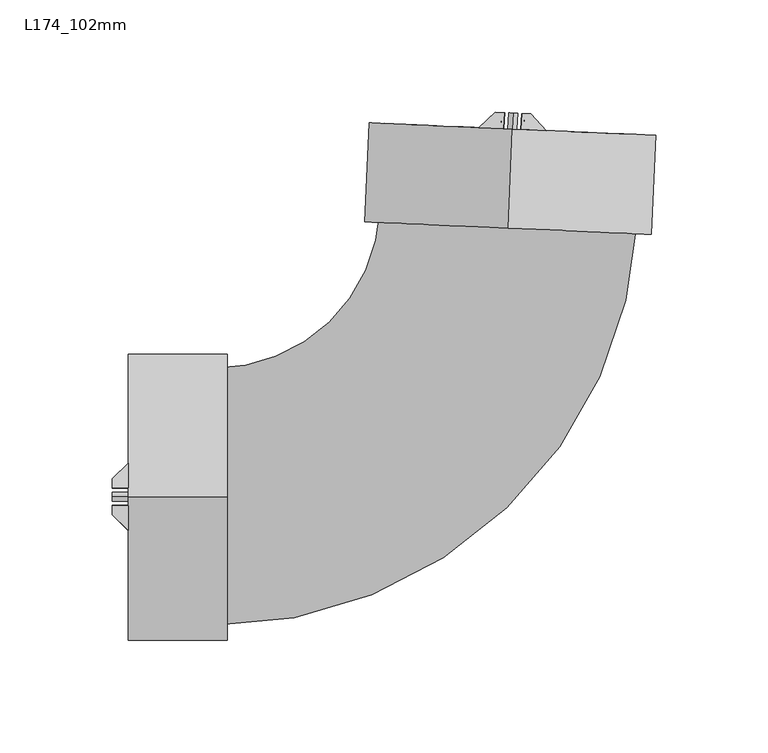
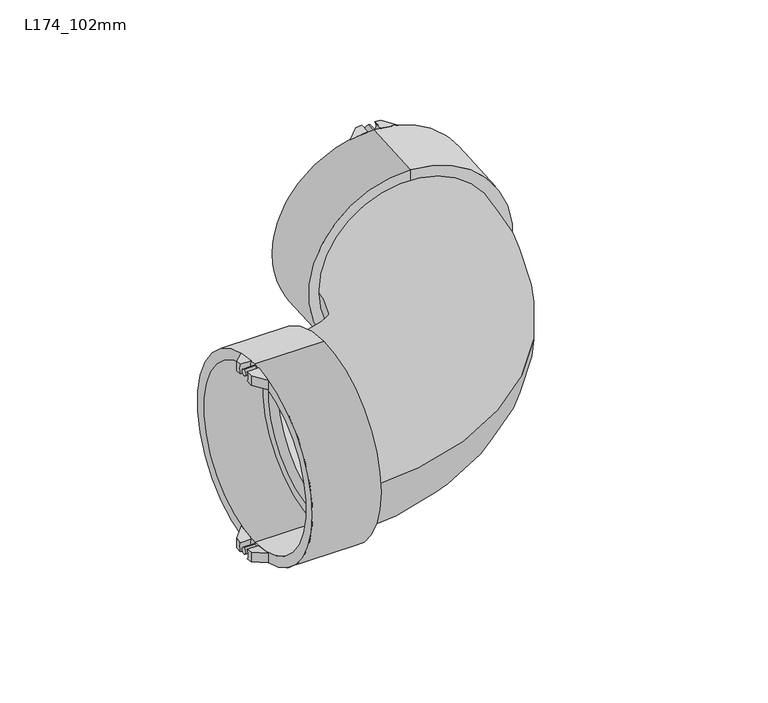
"""IFC4 building model written with IfcOpenShell, lengths in millimetres: pipe fitting geometry, Durapipe_PipeFitting_VulcatheneEnfusion_DoubleSocketLongSweepBend_L17 : L174_102mm."""

from ifc_helpers import new_model, si_unit, point, frame, frame_2d, origin, place, context, project, spatial, polyline, circle_curve, ellipse_curve, trimmed, segment, composite_curve, outline, extrude, source, transform, mapped, element, save
from ifc_brep_helpers import plane_surface, cylinder_surface, revolved_surface, advanced_brep


def l174_102mm_c659d813(model_context):
    return source(origin(), model_context, "Body", "SolidModel", [
        advanced_brep(
        [(3.6793337, 170.8945692, -57.2253926), (3.4771819, 170.9033954, -63.5253926), (-0.4782208, 171.076092, -63.1528218), (-0.4782208, 171.076092, -56.7977015), (-7.8411989, 164.2908025, -61.8572752), (3.1674842, 163.810153, -63.5253926), (3.369636, 163.8013269, -57.2253926), (-7.8411989, 164.2908025, -55.3536133)],
        [
            (0, 1, circle_curve(frame((7.454222, 170.7297541, -60.5), z_axis=(-0.04361938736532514, -0.9990482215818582, 0.0), x_axis=(0.0, 0.0, 1.0)), 5.0)),
            (1, 2, circle_curve(frame((7.454222, 170.7297541, 0.0), z_axis=(0.04361938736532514, 0.9990482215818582, 0.0), x_axis=(0.0, 0.0, 1.0)), 63.65)),
            (2, 3),
            (3, 0, circle_curve(frame((7.454222, 170.7297541, 0.0), z_axis=(-0.04361938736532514, -0.9990482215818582, 0.0), x_axis=(0.0, 0.0, 1.0)), 57.35)),
            (4, 5, circle_curve(frame((7.1445244, 163.6365117, 0.0), z_axis=(-0.04361938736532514, -0.9990482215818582, 0.0), x_axis=(0.0, 0.0, 1.0)), 63.65)),
            (5, 6, circle_curve(frame((7.1445244, 163.6365117, -60.5), z_axis=(0.04361938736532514, 0.9990482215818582, 0.0), x_axis=(0.0, 0.0, 1.0)), 5.0)),
            (6, 7, circle_curve(frame((7.1445244, 163.6365117, 0.0), z_axis=(0.04361938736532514, 0.9990482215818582, 0.0), x_axis=(0.0, 0.0, 1.0)), 57.35)),
            (7, 4),
            (6, 0),
            (3, 7, ellipse_curve(frame((7.8025222, 178.70714, 0.0), z_axis=(-0.6776702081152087, 0.7353659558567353, 0.0), x_axis=(-0.7353659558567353, -0.6776702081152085, 0.0)), 81.3352319, 57.35)),
            (4, 2, ellipse_curve(frame((7.8025222, 178.70714, 0.0), z_axis=(0.6776702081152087, -0.7353659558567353, 0.0), x_axis=(0.7353659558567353, 0.6776702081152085, 0.0)), 90.2700525, 63.65)),
            (1, 5),
        ],
        [
            plane_surface(frame((-7.5315013, 171.3840449, -61.8572752), z_axis=(0.04361938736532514, 0.9990482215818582, 0.0), x_axis=(0.0, 0.0, 1.0))),
            plane_surface(frame((-7.8411989, 164.2908025, -61.8572752), z_axis=(-0.04361938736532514, -0.9990482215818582, 0.0), x_axis=(0.0, 0.0, -1.0))),
            revolved_surface(polyline([(5.2867771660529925, 121.08710460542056, 57.35), (10.318267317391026, 236.32717539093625, 57.35)]), (7.1445244, 163.6365117, 0.0), (-0.04361938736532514, -0.9990482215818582, 0.0)),
            cylinder_surface(frame((7.1445244, 163.6365117, 0.0), z_axis=(0.04361938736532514, 0.9990482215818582, 0.0), x_axis=(0.0, 0.0, 1.0)), 63.65),
            revolved_surface(polyline([(7.454222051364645, 170.7297540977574, -55.5), (7.144524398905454, 163.6365116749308, -55.5)]), (7.1445244, 163.6365117, -60.5), (0.04361938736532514, 0.9990482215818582, 0.0)),
            plane_surface(frame((-7.8411989, 164.2908025, 63.65), z_axis=(-0.6776702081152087, 0.7353659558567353, 0.0), x_axis=(0.0, 0.0, -1.0))),
        ],
        [
            (0, [[1, 2, 3, 4]]),
            (1, [[5, 6, 7, 8]]),
            (2, [[-7, 9, -4, 10]]),
            (3, [[-5, 11, -2, 12]]),
            (4, [[-1, -9, -6, -12]]),
            (5, [[-3, -11, -8, -10]]),
        ],
    ),
        advanced_brep(
        [(11.4312622, 170.5561127, -63.5253926), (11.2291104, 170.5649389, -57.2253926), (15.3866649, 170.3834161, -56.7977015), (15.3866649, 170.3834161, -63.1528218), (11.1215646, 163.4628704, -63.5253926), (22.1302477, 162.9822209, -61.8572752), (22.1302477, 162.9822209, -55.3536133), (10.9194127, 163.4716965, -57.2253926)],
        [
            (0, 1, circle_curve(frame((7.454222, 170.7297541, -60.5), z_axis=(-0.04361938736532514, -0.9990482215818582, 0.0), x_axis=(0.0, 0.0, 1.0)), 5.0)),
            (1, 2, circle_curve(frame((7.454222, 170.7297541, 0.0), z_axis=(-0.04361938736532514, -0.9990482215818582, 0.0), x_axis=(0.0, 0.0, 1.0)), 57.35)),
            (2, 3),
            (3, 0, circle_curve(frame((7.454222, 170.7297541, 0.0), z_axis=(0.04361938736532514, 0.9990482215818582, 0.0), x_axis=(0.0, 0.0, 1.0)), 63.65)),
            (4, 5, circle_curve(frame((7.1445244, 163.6365117, 0.0), z_axis=(-0.04361938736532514, -0.9990482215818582, 0.0), x_axis=(0.0, 0.0, 1.0)), 63.65)),
            (5, 6),
            (6, 7, circle_curve(frame((7.1445244, 163.6365117, 0.0), z_axis=(0.04361938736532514, 0.9990482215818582, 0.0), x_axis=(0.0, 0.0, 1.0)), 57.35)),
            (7, 4, circle_curve(frame((7.1445244, 163.6365117, -60.5), z_axis=(0.04361938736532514, 0.9990482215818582, 0.0), x_axis=(0.0, 0.0, 1.0)), 5.0)),
            (6, 2, ellipse_curve(frame((7.8025222, 178.70714, 0.0), z_axis=(0.7391828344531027, 0.6735048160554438, 0.0), x_axis=(0.6735048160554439, -0.7391828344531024, 0.0)), 81.3352319, 57.35)),
            (1, 7),
            (4, 0),
            (3, 5, ellipse_curve(frame((7.8025222, 178.70714, 0.0), z_axis=(-0.7391828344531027, -0.6735048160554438, 0.0), x_axis=(-0.6735048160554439, 0.7391828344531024, 0.0)), 90.2700525, 63.65)),
        ],
        [
            plane_surface(frame((-7.5315013, 171.3840449, -61.8572752), z_axis=(0.04361938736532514, 0.9990482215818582, 0.0), x_axis=(0.0, 0.0, 1.0))),
            plane_surface(frame((-7.8411989, 164.2908025, -61.8572752), z_axis=(-0.04361938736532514, -0.9990482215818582, 0.0), x_axis=(0.0, 0.0, -1.0))),
            revolved_surface(polyline([(5.286777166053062, 121.08710460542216, 57.35), (10.318267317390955, 236.32717539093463, 57.35)]), (7.1445244, 163.6365117, 0.0), (-0.04361938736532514, -0.9990482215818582, 0.0)),
            cylinder_surface(frame((7.1445244, 163.6365117, 0.0), z_axis=(0.04361938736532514, 0.9990482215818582, 0.0), x_axis=(0.0, 0.0, 1.0)), 63.65),
            revolved_surface(polyline([(7.454222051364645, 170.7297540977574, -55.5), (7.144524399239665, 163.63651168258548, -55.5)]), (7.1445244, 163.6365117, -60.5), (0.04361938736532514, 0.9990482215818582, 0.0)),
            plane_surface(frame((15.3866649, 170.3834161, 63.65), z_axis=(0.7391828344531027, 0.6735048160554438, 0.0), x_axis=(0.0, 0.0, -1.0))),
        ],
        [
            (0, [[1, 2, 3, 4]]),
            (1, [[5, 6, 7, 8]]),
            (2, [[-7, 9, -2, 10]]),
            (3, [[-5, 11, -4, 12]]),
            (4, [[-1, -11, -8, -10]]),
            (5, [[-3, -9, -6, -12]]),
        ],
    ),
        advanced_brep(
        [(3.4771819, 170.9033954, 63.5253926), (3.6793337, 170.8945692, 57.2253926), (-0.4782208, 171.076092, 56.7977015), (-0.4782208, 171.076092, 63.1528218), (3.1674842, 163.810153, 63.5253926), (-7.8411989, 164.2908025, 61.8572752), (-7.8411989, 164.2908025, 55.3536133), (3.369636, 163.8013269, 57.2253926)],
        [
            (0, 1, circle_curve(frame((7.454222, 170.7297541, 60.5), z_axis=(-0.04361938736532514, -0.9990482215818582, 0.0), x_axis=(0.0, 0.0, 1.0)), 5.0)),
            (1, 2, circle_curve(frame((7.454222, 170.7297541, 0.0), z_axis=(-0.04361938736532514, -0.9990482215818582, 0.0), x_axis=(0.0, 0.0, 1.0)), 57.35)),
            (2, 3),
            (3, 0, circle_curve(frame((7.454222, 170.7297541, 0.0), z_axis=(0.04361938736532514, 0.9990482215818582, 0.0), x_axis=(0.0, 0.0, 1.0)), 63.65)),
            (4, 5, circle_curve(frame((7.1445244, 163.6365117, 0.0), z_axis=(-0.04361938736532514, -0.9990482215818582, 0.0), x_axis=(0.0, 0.0, 1.0)), 63.65)),
            (5, 6),
            (6, 7, circle_curve(frame((7.1445244, 163.6365117, 0.0), z_axis=(0.04361938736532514, 0.9990482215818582, 0.0), x_axis=(0.0, 0.0, 1.0)), 57.35)),
            (7, 4, circle_curve(frame((7.1445244, 163.6365117, 60.5), z_axis=(0.04361938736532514, 0.9990482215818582, 0.0), x_axis=(0.0, 0.0, 1.0)), 5.0)),
            (6, 2, ellipse_curve(frame((7.8025222, 178.70714, 0.0), z_axis=(-0.6776702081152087, 0.7353659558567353, 0.0), x_axis=(-0.7353659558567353, -0.6776702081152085, 0.0)), 81.3352319, 57.35)),
            (1, 7),
            (4, 0),
            (3, 5, ellipse_curve(frame((7.8025222, 178.70714, 0.0), z_axis=(0.6776702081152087, -0.7353659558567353, 0.0), x_axis=(0.7353659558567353, 0.6776702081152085, 0.0)), 90.2700525, 63.65)),
        ],
        [
            plane_surface(frame((-7.5315013, 171.3840449, -61.8572752), z_axis=(0.04361938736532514, 0.9990482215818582, 0.0), x_axis=(0.0, 0.0, 1.0))),
            plane_surface(frame((-7.8411989, 164.2908025, -61.8572752), z_axis=(-0.04361938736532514, -0.9990482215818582, 0.0), x_axis=(0.0, 0.0, -1.0))),
            revolved_surface(polyline([(5.2867771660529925, 121.08710460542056, 57.35), (10.318267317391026, 236.32717539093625, 57.35)]), (7.1445244, 163.6365117, 0.0), (-0.04361938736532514, -0.9990482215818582, 0.0)),
            cylinder_surface(frame((7.1445244, 163.6365117, 0.0), z_axis=(0.04361938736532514, 0.9990482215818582, 0.0), x_axis=(0.0, 0.0, 1.0)), 63.65),
            revolved_surface(polyline([(7.454222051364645, 170.7297540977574, 65.5), (7.144524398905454, 163.6365116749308, 65.5)]), (7.1445244, 163.6365117, 60.5), (0.04361938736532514, 0.9990482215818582, 0.0)),
            plane_surface(frame((-7.8411989, 164.2908025, 63.65), z_axis=(-0.6776702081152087, 0.7353659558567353, 0.0), x_axis=(0.0, 0.0, -1.0))),
        ],
        [
            (0, [[1, 2, 3, 4]]),
            (1, [[5, 6, 7, 8]]),
            (2, [[-7, 9, -2, 10]]),
            (3, [[-5, 11, -4, 12]]),
            (4, [[-1, -11, -8, -10]]),
            (5, [[-3, -9, -6, -12]]),
        ],
    ),
        advanced_brep(
        [(11.2291104, 170.5649389, 57.2253926), (11.4312622, 170.5561127, 63.5253926), (15.3866649, 170.3834161, 63.1528218), (15.3866649, 170.3834161, 56.7977015), (22.1302477, 162.9822209, 61.8572752), (11.1215646, 163.4628704, 63.5253926), (10.9194127, 163.4716965, 57.2253926), (22.1302477, 162.9822209, 55.3536133)],
        [
            (0, 1, circle_curve(frame((7.454222, 170.7297541, 60.5), z_axis=(-0.04361938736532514, -0.9990482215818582, 0.0), x_axis=(0.0, 0.0, 1.0)), 5.0)),
            (1, 2, circle_curve(frame((7.454222, 170.7297541, 0.0), z_axis=(0.04361938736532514, 0.9990482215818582, 0.0), x_axis=(0.0, 0.0, 1.0)), 63.65)),
            (2, 3),
            (3, 0, circle_curve(frame((7.454222, 170.7297541, 0.0), z_axis=(-0.04361938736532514, -0.9990482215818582, 0.0), x_axis=(0.0, 0.0, 1.0)), 57.35)),
            (4, 5, circle_curve(frame((7.1445244, 163.6365117, 0.0), z_axis=(-0.04361938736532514, -0.9990482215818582, 0.0), x_axis=(0.0, 0.0, 1.0)), 63.65)),
            (5, 6, circle_curve(frame((7.1445244, 163.6365117, 60.5), z_axis=(0.04361938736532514, 0.9990482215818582, 0.0), x_axis=(0.0, 0.0, 1.0)), 5.0)),
            (6, 7, circle_curve(frame((7.1445244, 163.6365117, 0.0), z_axis=(0.04361938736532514, 0.9990482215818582, 0.0), x_axis=(0.0, 0.0, 1.0)), 57.35)),
            (7, 4),
            (6, 0),
            (3, 7, ellipse_curve(frame((7.8025222, 178.70714, 0.0), z_axis=(0.7391828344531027, 0.6735048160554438, 0.0), x_axis=(0.6735048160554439, -0.7391828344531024, 0.0)), 81.3352319, 57.35)),
            (4, 2, ellipse_curve(frame((7.8025222, 178.70714, 0.0), z_axis=(-0.7391828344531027, -0.6735048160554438, 0.0), x_axis=(-0.6735048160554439, 0.7391828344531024, 0.0)), 90.2700525, 63.65)),
            (1, 5),
        ],
        [
            plane_surface(frame((-7.5315013, 171.3840449, -61.8572752), z_axis=(0.04361938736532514, 0.9990482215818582, 0.0), x_axis=(0.0, 0.0, 1.0))),
            plane_surface(frame((-7.8411989, 164.2908025, -61.8572752), z_axis=(-0.04361938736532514, -0.9990482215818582, 0.0), x_axis=(0.0, 0.0, -1.0))),
            revolved_surface(polyline([(5.286777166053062, 121.08710460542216, 57.35), (10.318267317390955, 236.32717539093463, 57.35)]), (7.1445244, 163.6365117, 0.0), (-0.04361938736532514, -0.9990482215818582, 0.0)),
            cylinder_surface(frame((7.1445244, 163.6365117, 0.0), z_axis=(0.04361938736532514, 0.9990482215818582, 0.0), x_axis=(0.0, 0.0, 1.0)), 63.65),
            revolved_surface(polyline([(7.454222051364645, 170.7297540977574, 65.5), (7.144524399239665, 163.63651168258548, 65.5)]), (7.1445244, 163.6365117, 60.5), (0.04361938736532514, 0.9990482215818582, 0.0)),
            plane_surface(frame((15.3866649, 170.3834161, 63.65), z_axis=(0.7391828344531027, 0.6735048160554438, 0.0), x_axis=(0.0, 0.0, -1.0))),
        ],
        [
            (0, [[1, 2, 3, 4]]),
            (1, [[5, 6, 7, 8]]),
            (2, [[-7, 9, -4, 10]]),
            (3, [[-5, 11, -2, 12]]),
            (4, [[-1, -9, -6, -12]]),
            (5, [[-3, -11, -8, -10]]),
        ],
    ),
        extrude(outline(composite_curve([segment(trimmed(circle_curve(frame_2d((0.0, -2.0)), 2.0), [point((0.0, -4.0))], [point((0.0, 0.0))], False, "CARTESIAN"), True, "CONTINUOUS"), segment(trimmed(circle_curve(frame_2d((0.0, -2.0)), 2.0), [point((0.0, 0.0))], [point((0.0, -4.0))], False, "CARTESIAN"), True, "CONTINUOUS")], self_intersect=False)), frame((7.1445244, 163.6365117, -58.5), z_axis=(0.04361938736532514, 0.9990482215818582, 0.0), x_axis=(-0.9990482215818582, 0.04361938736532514, 0.0)), (0.0, 0.0, 1.0), 7.1),
        extrude(outline(composite_curve([segment(trimmed(circle_curve(frame_2d((0.0, 119.0)), 2.0), [point((0.0, 117.0))], [point((0.0, 121.0))], False, "CARTESIAN"), True, "CONTINUOUS"), segment(trimmed(circle_curve(frame_2d((0.0, 119.0)), 2.0), [point((0.0, 121.0))], [point((0.0, 117.0))], False, "CARTESIAN"), True, "CONTINUOUS")], self_intersect=False)), frame((7.1445244, 163.6365117, -58.5), z_axis=(0.04361938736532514, 0.9990482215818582, 0.0), x_axis=(-0.9990482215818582, 0.04361938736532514, 0.0)), (0.0, 0.0, 1.0), 7.1),
        advanced_brep(
        [(5.4826257, 125.5727744, -51.45), (5.4826257, 125.5727744, 51.45), (5.4826257, 125.5727744, 57.2), (5.4826257, 125.5727744, -57.2), (5.2209094, 119.5784851, -51.45), (5.2209094, 119.5784851, 51.45), (5.2209094, 119.5784851, -63.8), (5.2209094, 119.5784851, 63.8), (7.1445244, 163.6365117, -63.8), (7.1445244, 163.6365117, 63.8), (7.1445244, 163.6365117, -57.2), (7.1445244, 163.6365117, 57.2)],
        [
            (0, 1, circle_curve(frame((5.4826257, 125.5727744, 0.0), z_axis=(-0.04361938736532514, -0.9990482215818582, 0.0), x_axis=(0.0, 0.0, 1.0)), 51.45)),
            (1, 2),
            (2, 3, circle_curve(frame((5.4826257, 125.5727744, 0.0), z_axis=(0.04361938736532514, 0.9990482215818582, 0.0), x_axis=(0.0, 0.0, 1.0)), 57.2)),
            (3, 0),
            (1, 0, circle_curve(frame((5.4826257, 125.5727744, 0.0), z_axis=(-0.04361938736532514, -0.9990482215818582, 0.0), x_axis=(0.0, 0.0, 1.0)), 51.45)),
            (3, 2, circle_curve(frame((5.4826257, 125.5727744, 0.0), z_axis=(0.04361938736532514, 0.9990482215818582, 0.0), x_axis=(0.0, 0.0, 1.0)), 57.2)),
            (4, 5, circle_curve(frame((5.2209094, 119.5784851, 0.0), z_axis=(-0.04361938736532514, -0.9990482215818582, 0.0), x_axis=(0.0, 0.0, 1.0)), 51.45)),
            (5, 1),
            (0, 4),
            (5, 4, circle_curve(frame((5.2209094, 119.5784851, 0.0), z_axis=(-0.04361938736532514, -0.9990482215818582, 0.0), x_axis=(0.0, 0.0, 1.0)), 51.45)),
            (6, 7, circle_curve(frame((5.2209094, 119.5784851, 0.0), z_axis=(-0.04361938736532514, -0.9990482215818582, 0.0), x_axis=(0.0, 0.0, 1.0)), 63.8)),
            (7, 5),
            (4, 6),
            (7, 6, circle_curve(frame((5.2209094, 119.5784851, 0.0), z_axis=(-0.04361938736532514, -0.9990482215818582, 0.0), x_axis=(0.0, 0.0, 1.0)), 63.8)),
            (8, 9, circle_curve(frame((7.1445244, 163.6365117, 0.0), z_axis=(-0.04361938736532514, -0.9990482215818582, 0.0), x_axis=(0.0, 0.0, 1.0)), 63.8)),
            (9, 7),
            (6, 8),
            (9, 8, circle_curve(frame((7.1445244, 163.6365117, 0.0), z_axis=(-0.04361938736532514, -0.9990482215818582, 0.0), x_axis=(0.0, 0.0, 1.0)), 63.8)),
            (10, 11, circle_curve(frame((7.1445244, 163.6365117, 0.0), z_axis=(-0.04361938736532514, -0.9990482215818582, 0.0), x_axis=(0.0, 0.0, 1.0)), 57.2)),
            (11, 9),
            (8, 10),
            (11, 10, circle_curve(frame((7.1445244, 163.6365117, 0.0), z_axis=(-0.04361938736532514, -0.9990482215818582, 0.0), x_axis=(0.0, 0.0, 1.0)), 57.2)),
            (2, 11),
            (10, 3),
        ],
        [
            plane_surface(frame((5.4826257, 125.5727744, 0.0), z_axis=(0.04361938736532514, 0.9990482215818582, 0.0), x_axis=(0.0, 0.0, 1.0))),
            revolved_surface(polyline([(5.482625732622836, 125.5727743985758, 51.45), (5.220909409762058, 119.57848509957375, 51.45)]), (116.8029063, 2675.2263813, 0.0), (0.04361938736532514, 0.9990482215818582, 0.0)),
            plane_surface(frame((5.2209094, 119.5784851, 0.0), z_axis=(-0.04361938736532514, -0.9990482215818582, 0.0), x_axis=(0.0, 0.0, 1.0))),
            cylinder_surface(frame((116.8029063, 2675.2263813, 0.0), z_axis=(0.04361938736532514, 0.9990482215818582, 0.0), x_axis=(0.0, 0.0, 1.0)), 63.8),
            plane_surface(frame((7.1445244, 163.6365117, 0.0), z_axis=(0.04361938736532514, 0.9990482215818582, 0.0), x_axis=(0.0, 0.0, 1.0))),
            revolved_surface(polyline([(7.144524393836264, 163.63651170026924, 57.2), (5.482625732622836, 125.5727743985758, 57.2)]), (116.8029063, 2675.2263813, 0.0), (0.04361938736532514, 0.9990482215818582, 0.0)),
        ],
        [
            (0, [[1, 2, 3, 4]]),
            (0, [[5, -4, 6, -2]]),
            (1, [[7, 8, -1, 9]]),
            (1, [[10, -9, -5, -8]]),
            (2, [[11, 12, -7, 13]]),
            (2, [[14, -13, -10, -12]]),
            (3, [[15, 16, -11, 17]]),
            (3, [[18, -17, -14, -16]]),
            (4, [[19, 20, -15, 21]]),
            (4, [[22, -21, -18, -20]]),
            (5, [[-3, 23, -19, 24]]),
            (5, [[-6, -24, -22, -23]]),
        ],
    ),
        advanced_brep(
        [(-170.8924058, -3.7784846, -57.2253926), (-170.8924058, -3.980829, -63.5253926), (-170.8924058, -7.94, -63.1528218), (-170.8924058, -7.94, -56.7977015), (-163.7924058, -15.0, -61.8572752), (-163.7924058, -3.980829, -63.5253926), (-163.7924058, -3.7784846, -57.2253926), (-163.7924058, -15.0, -55.3536133)],
        [
            (0, 1, circle_curve(frame((-170.8924058, 0.0, -60.5), z_axis=(1.0, 0.0, 0.0), x_axis=(0.0, 0.0, 1.0)), 5.0)),
            (1, 2, circle_curve(frame((-170.8924058, 0.0, 0.0), z_axis=(-1.0, 0.0, 0.0), x_axis=(0.0, 0.0, 1.0)), 63.65)),
            (2, 3),
            (3, 0, circle_curve(frame((-170.8924058, 0.0, 0.0), z_axis=(1.0, 0.0, 0.0), x_axis=(0.0, 0.0, 1.0)), 57.35)),
            (4, 5, circle_curve(frame((-163.7924058, 0.0, 0.0), z_axis=(1.0, 0.0, 0.0), x_axis=(0.0, 0.0, 1.0)), 63.65)),
            (5, 6, circle_curve(frame((-163.7924058, 0.0, -60.5), z_axis=(-1.0, 0.0, 0.0), x_axis=(0.0, 0.0, 1.0)), 5.0)),
            (6, 7, circle_curve(frame((-163.7924058, 0.0, 0.0), z_axis=(-1.0, 0.0, 0.0), x_axis=(0.0, 0.0, 1.0)), 57.35)),
            (7, 4),
            (6, 0),
            (3, 7, ellipse_curve(frame((-178.8773916, 0.0, 0.0), z_axis=(-0.705106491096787, -0.7091014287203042, 0.0), x_axis=(0.7091014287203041, -0.7051064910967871, 0.0)), 81.3352319, 57.35)),
            (4, 2, ellipse_curve(frame((-178.8773916, 0.0, 0.0), z_axis=(0.705106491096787, 0.7091014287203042, 0.0), x_axis=(-0.7091014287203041, 0.7051064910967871, 0.0)), 90.2700525, 63.65)),
            (1, 5),
        ],
        [
            plane_surface(frame((-170.8924058, -15.0, -61.8572752), z_axis=(-1.0, 0.0, 0.0), x_axis=(0.0, 0.0, 1.0))),
            plane_surface(frame((-163.7924058, -15.0, -61.8572752), z_axis=(1.0, 0.0, 0.0), x_axis=(0.0, 0.0, -1.0))),
            revolved_surface(polyline([(-121.20246245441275, 0.0, 57.35), (-236.55232074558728, 0.0, 57.35)]), (-163.7924058, 0.0, 0.0), (1.0, 0.0, 0.0)),
            cylinder_surface(frame((-163.7924058, 0.0, 0.0), z_axis=(-1.0, 0.0, 0.0), x_axis=(0.0, 0.0, 1.0)), 63.65),
            revolved_surface(polyline([(-170.8924058, 0.0, -55.5), (-163.7924058, 0.0, -55.5)]), (-163.7924058, 0.0, -60.5), (-1.0, 0.0, 0.0)),
            plane_surface(frame((-163.7924058, -15.0, 63.65), z_axis=(-0.705106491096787, -0.7091014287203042, 0.0), x_axis=(0.0, 0.0, -1.0))),
        ],
        [
            (0, [[1, 2, 3, 4]]),
            (1, [[5, 6, 7, 8]]),
            (2, [[-7, 9, -4, 10]]),
            (3, [[-5, 11, -2, 12]]),
            (4, [[-1, -9, -6, -12]]),
            (5, [[-3, -11, -8, -10]]),
        ],
    ),
        advanced_brep(
        [(-170.8924058, 3.980829, -63.5253926), (-170.8924058, 3.7784846, -57.2253926), (-170.8924058, 7.94, -56.7977015), (-170.8924058, 7.94, -63.1528218), (-163.7924058, 3.980829, -63.5253926), (-163.7924058, 15.0, -61.8572752), (-163.7924058, 15.0, -55.3536133), (-163.7924058, 3.7784846, -57.2253926)],
        [
            (0, 1, circle_curve(frame((-170.8924058, 0.0, -60.5), z_axis=(1.0, 0.0, 0.0), x_axis=(0.0, 0.0, 1.0)), 5.0)),
            (1, 2, circle_curve(frame((-170.8924058, 0.0, 0.0), z_axis=(1.0, 0.0, 0.0), x_axis=(0.0, 0.0, 1.0)), 57.35)),
            (2, 3),
            (3, 0, circle_curve(frame((-170.8924058, 0.0, 0.0), z_axis=(-1.0, 0.0, 0.0), x_axis=(0.0, 0.0, 1.0)), 63.65)),
            (4, 5, circle_curve(frame((-163.7924058, 0.0, 0.0), z_axis=(1.0, 0.0, 0.0), x_axis=(0.0, 0.0, 1.0)), 63.65)),
            (5, 6),
            (6, 7, circle_curve(frame((-163.7924058, 0.0, 0.0), z_axis=(-1.0, 0.0, 0.0), x_axis=(0.0, 0.0, 1.0)), 57.35)),
            (7, 4, circle_curve(frame((-163.7924058, 0.0, -60.5), z_axis=(-1.0, 0.0, 0.0), x_axis=(0.0, 0.0, 1.0)), 5.0)),
            (6, 2, ellipse_curve(frame((-178.8773916, 0.0, 0.0), z_axis=(-0.7051064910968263, 0.7091014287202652, 0.0), x_axis=(0.7091014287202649, 0.7051064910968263, 0.0)), 81.3352319, 57.35)),
            (1, 7),
            (4, 0),
            (3, 5, ellipse_curve(frame((-178.8773916, 0.0, 0.0), z_axis=(0.7051064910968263, -0.7091014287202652, 0.0), x_axis=(-0.7091014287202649, -0.7051064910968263, 0.0)), 90.2700525, 63.65)),
        ],
        [
            plane_surface(frame((-170.8924058, -15.0, -61.8572752), z_axis=(-1.0, 0.0, 0.0), x_axis=(0.0, 0.0, 1.0))),
            plane_surface(frame((-163.7924058, -15.0, -61.8572752), z_axis=(1.0, 0.0, 0.0), x_axis=(0.0, 0.0, -1.0))),
            revolved_surface(polyline([(-121.20246245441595, 0.0, 57.35), (-236.55232074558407, 0.0, 57.35)]), (-163.7924058, 0.0, 0.0), (1.0, 0.0, 0.0)),
            cylinder_surface(frame((-163.7924058, 0.0, 0.0), z_axis=(-1.0, 0.0, 0.0), x_axis=(0.0, 0.0, 1.0)), 63.65),
            revolved_surface(polyline([(-170.8924058, 0.0, -55.5), (-163.7924058, 0.0, -55.5)]), (-163.7924058, 0.0, -60.5), (-1.0, 0.0, 0.0)),
            plane_surface(frame((-170.8924058, 7.94, 63.65), z_axis=(-0.7051064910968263, 0.7091014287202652, 0.0), x_axis=(0.0, 0.0, -1.0))),
        ],
        [
            (0, [[1, 2, 3, 4]]),
            (1, [[5, 6, 7, 8]]),
            (2, [[-7, 9, -2, 10]]),
            (3, [[-5, 11, -4, 12]]),
            (4, [[-1, -11, -8, -10]]),
            (5, [[-3, -9, -6, -12]]),
        ],
    ),
        advanced_brep(
        [(-170.8924058, -3.980829, 63.5253926), (-170.8924058, -3.7784846, 57.2253926), (-170.8924058, -7.94, 56.7977015), (-170.8924058, -7.94, 63.1528218), (-163.7924058, -3.980829, 63.5253926), (-163.7924058, -15.0, 61.8572752), (-163.7924058, -15.0, 55.3536133), (-163.7924058, -3.7784846, 57.2253926)],
        [
            (0, 1, circle_curve(frame((-170.8924058, 0.0, 60.5), z_axis=(1.0, 0.0, 0.0), x_axis=(0.0, 0.0, 1.0)), 5.0)),
            (1, 2, circle_curve(frame((-170.8924058, 0.0, 0.0), z_axis=(1.0, 0.0, 0.0), x_axis=(0.0, 0.0, 1.0)), 57.35)),
            (2, 3),
            (3, 0, circle_curve(frame((-170.8924058, 0.0, 0.0), z_axis=(-1.0, 0.0, 0.0), x_axis=(0.0, 0.0, 1.0)), 63.65)),
            (4, 5, circle_curve(frame((-163.7924058, 0.0, 0.0), z_axis=(1.0, 0.0, 0.0), x_axis=(0.0, 0.0, 1.0)), 63.65)),
            (5, 6),
            (6, 7, circle_curve(frame((-163.7924058, 0.0, 0.0), z_axis=(-1.0, 0.0, 0.0), x_axis=(0.0, 0.0, 1.0)), 57.35)),
            (7, 4, circle_curve(frame((-163.7924058, 0.0, 60.5), z_axis=(-1.0, 0.0, 0.0), x_axis=(0.0, 0.0, 1.0)), 5.0)),
            (6, 2, ellipse_curve(frame((-178.8773916, 0.0, 0.0), z_axis=(-0.705106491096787, -0.7091014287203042, 0.0), x_axis=(0.7091014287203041, -0.7051064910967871, 0.0)), 81.3352319, 57.35)),
            (1, 7),
            (4, 0),
            (3, 5, ellipse_curve(frame((-178.8773916, 0.0, 0.0), z_axis=(0.705106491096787, 0.7091014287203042, 0.0), x_axis=(-0.7091014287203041, 0.7051064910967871, 0.0)), 90.2700525, 63.65)),
        ],
        [
            plane_surface(frame((-170.8924058, -15.0, -61.8572752), z_axis=(-1.0, 0.0, 0.0), x_axis=(0.0, 0.0, 1.0))),
            plane_surface(frame((-163.7924058, -15.0, -61.8572752), z_axis=(1.0, 0.0, 0.0), x_axis=(0.0, 0.0, -1.0))),
            revolved_surface(polyline([(-121.20246245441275, 0.0, 57.35), (-236.55232074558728, 0.0, 57.35)]), (-163.7924058, 0.0, 0.0), (1.0, 0.0, 0.0)),
            cylinder_surface(frame((-163.7924058, 0.0, 0.0), z_axis=(-1.0, 0.0, 0.0), x_axis=(0.0, 0.0, 1.0)), 63.65),
            revolved_surface(polyline([(-170.8924058, 0.0, 65.5), (-163.7924058, 0.0, 65.5)]), (-163.7924058, 0.0, 60.5), (-1.0, 0.0, 0.0)),
            plane_surface(frame((-163.7924058, -15.0, 63.65), z_axis=(-0.705106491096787, -0.7091014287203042, 0.0), x_axis=(0.0, 0.0, -1.0))),
        ],
        [
            (0, [[1, 2, 3, 4]]),
            (1, [[5, 6, 7, 8]]),
            (2, [[-7, 9, -2, 10]]),
            (3, [[-5, 11, -4, 12]]),
            (4, [[-1, -11, -8, -10]]),
            (5, [[-3, -9, -6, -12]]),
        ],
    ),
        advanced_brep(
        [(-170.8924058, 3.7784846, 57.2253926), (-170.8924058, 3.980829, 63.5253926), (-170.8924058, 7.94, 63.1528218), (-170.8924058, 7.94, 56.7977015), (-163.7924058, 15.0, 61.8572752), (-163.7924058, 3.980829, 63.5253926), (-163.7924058, 3.7784846, 57.2253926), (-163.7924058, 15.0, 55.3536133)],
        [
            (0, 1, circle_curve(frame((-170.8924058, 0.0, 60.5), z_axis=(1.0, 0.0, 0.0), x_axis=(0.0, 0.0, 1.0)), 5.0)),
            (1, 2, circle_curve(frame((-170.8924058, 0.0, 0.0), z_axis=(-1.0, 0.0, 0.0), x_axis=(0.0, 0.0, 1.0)), 63.65)),
            (2, 3),
            (3, 0, circle_curve(frame((-170.8924058, 0.0, 0.0), z_axis=(1.0, 0.0, 0.0), x_axis=(0.0, 0.0, 1.0)), 57.35)),
            (4, 5, circle_curve(frame((-163.7924058, 0.0, 0.0), z_axis=(1.0, 0.0, 0.0), x_axis=(0.0, 0.0, 1.0)), 63.65)),
            (5, 6, circle_curve(frame((-163.7924058, 0.0, 60.5), z_axis=(-1.0, 0.0, 0.0), x_axis=(0.0, 0.0, 1.0)), 5.0)),
            (6, 7, circle_curve(frame((-163.7924058, 0.0, 0.0), z_axis=(-1.0, 0.0, 0.0), x_axis=(0.0, 0.0, 1.0)), 57.35)),
            (7, 4),
            (6, 0),
            (3, 7, ellipse_curve(frame((-178.8773916, 0.0, 0.0), z_axis=(-0.7051064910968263, 0.7091014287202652, 0.0), x_axis=(0.7091014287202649, 0.7051064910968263, 0.0)), 81.3352319, 57.35)),
            (4, 2, ellipse_curve(frame((-178.8773916, 0.0, 0.0), z_axis=(0.7051064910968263, -0.7091014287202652, 0.0), x_axis=(-0.7091014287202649, -0.7051064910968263, 0.0)), 90.2700525, 63.65)),
            (1, 5),
        ],
        [
            plane_surface(frame((-170.8924058, -15.0, -61.8572752), z_axis=(-1.0, 0.0, 0.0), x_axis=(0.0, 0.0, 1.0))),
            plane_surface(frame((-163.7924058, -15.0, -61.8572752), z_axis=(1.0, 0.0, 0.0), x_axis=(0.0, 0.0, -1.0))),
            revolved_surface(polyline([(-121.20246245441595, 0.0, 57.35), (-236.55232074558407, 0.0, 57.35)]), (-163.7924058, 0.0, 0.0), (1.0, 0.0, 0.0)),
            cylinder_surface(frame((-163.7924058, 0.0, 0.0), z_axis=(-1.0, 0.0, 0.0), x_axis=(0.0, 0.0, 1.0)), 63.65),
            revolved_surface(polyline([(-170.8924058, 0.0, 65.5), (-163.7924058, 0.0, 65.5)]), (-163.7924058, 0.0, 60.5), (-1.0, 0.0, 0.0)),
            plane_surface(frame((-170.8924058, 7.94, 63.65), z_axis=(-0.7051064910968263, 0.7091014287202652, 0.0), x_axis=(0.0, 0.0, -1.0))),
        ],
        [
            (0, [[1, 2, 3, 4]]),
            (1, [[5, 6, 7, 8]]),
            (2, [[-7, 9, -4, 10]]),
            (3, [[-5, 11, -2, 12]]),
            (4, [[-1, -9, -6, -12]]),
            (5, [[-3, -11, -8, -10]]),
        ],
    ),
        extrude(outline(composite_curve([segment(trimmed(circle_curve(frame_2d((0.0, -60.5)), 2.0), [point((0.0, -62.5))], [point((0.0, -58.5))], False, "CARTESIAN"), True, "CONTINUOUS"), segment(trimmed(circle_curve(frame_2d((0.0, -60.5)), 2.0), [point((0.0, -58.5))], [point((0.0, -62.5))], False, "CARTESIAN"), True, "CONTINUOUS")], self_intersect=False)), frame((-170.8924058, 0.0, 0.0), z_axis=(1.0, 0.0, 0.0), x_axis=(0.0, 1.0, 0.0)), (0.0, 0.0, 1.0), 7.1),
        extrude(outline(composite_curve([segment(trimmed(circle_curve(frame_2d((0.0, 60.5)), 2.0), [point((0.0, 58.5))], [point((0.0, 62.5))], False, "CARTESIAN"), True, "CONTINUOUS"), segment(trimmed(circle_curve(frame_2d((0.0, 60.5)), 2.0), [point((0.0, 62.5))], [point((0.0, 58.5))], False, "CARTESIAN"), True, "CONTINUOUS")], self_intersect=False)), frame((-170.8924058, 0.0, 0.0), z_axis=(1.0, 0.0, 0.0), x_axis=(0.0, 1.0, 0.0)), (0.0, 0.0, 1.0), 7.1),
        advanced_brep(
        [(-125.6924058, 0.0, -51.45), (-125.6924058, 0.0, 51.45), (-125.6924058, 0.0, 57.2), (-125.6924058, 0.0, -57.2), (-119.6924058, 0.0, -51.45), (-119.6924058, 0.0, 51.45), (-119.6924058, 0.0, -63.8), (-119.6924058, 0.0, 63.8), (-163.7924058, 0.0, -63.8), (-163.7924058, 0.0, 63.8), (-163.7924058, 0.0, -57.2), (-163.7924058, 0.0, 57.2)],
        [
            (0, 1, circle_curve(frame((-125.6924058, 0.0, 0.0), z_axis=(1.0, 0.0, 0.0), x_axis=(0.0, 0.0, 1.0)), 51.45)),
            (1, 2),
            (2, 3, circle_curve(frame((-125.6924058, 0.0, 0.0), z_axis=(-1.0, 0.0, 0.0), x_axis=(0.0, 0.0, 1.0)), 57.2)),
            (3, 0),
            (1, 0, circle_curve(frame((-125.6924058, 0.0, 0.0), z_axis=(1.0, 0.0, 0.0), x_axis=(0.0, 0.0, 1.0)), 51.45)),
            (3, 2, circle_curve(frame((-125.6924058, 0.0, 0.0), z_axis=(-1.0, 0.0, 0.0), x_axis=(0.0, 0.0, 1.0)), 57.2)),
            (4, 5, circle_curve(frame((-119.6924058, 0.0, 0.0), z_axis=(1.0, 0.0, 0.0), x_axis=(0.0, 0.0, 1.0)), 51.45)),
            (5, 1),
            (0, 4),
            (5, 4, circle_curve(frame((-119.6924058, 0.0, 0.0), z_axis=(1.0, 0.0, 0.0), x_axis=(0.0, 0.0, 1.0)), 51.45)),
            (6, 7, circle_curve(frame((-119.6924058, 0.0, 0.0), z_axis=(1.0, 0.0, 0.0), x_axis=(0.0, 0.0, 1.0)), 63.8)),
            (7, 5),
            (4, 6),
            (7, 6, circle_curve(frame((-119.6924058, 0.0, 0.0), z_axis=(1.0, 0.0, 0.0), x_axis=(0.0, 0.0, 1.0)), 63.8)),
            (8, 9, circle_curve(frame((-163.7924058, 0.0, 0.0), z_axis=(1.0, 0.0, 0.0), x_axis=(0.0, 0.0, 1.0)), 63.8)),
            (9, 7),
            (6, 8),
            (9, 8, circle_curve(frame((-163.7924058, 0.0, 0.0), z_axis=(1.0, 0.0, 0.0), x_axis=(0.0, 0.0, 1.0)), 63.8)),
            (10, 11, circle_curve(frame((-163.7924058, 0.0, 0.0), z_axis=(1.0, 0.0, 0.0), x_axis=(0.0, 0.0, 1.0)), 57.2)),
            (11, 9),
            (8, 10),
            (11, 10, circle_curve(frame((-163.7924058, 0.0, 0.0), z_axis=(1.0, 0.0, 0.0), x_axis=(0.0, 0.0, 1.0)), 57.2)),
            (2, 11),
            (10, 3),
        ],
        [
            plane_surface(frame((-125.6924058, 0.0, 0.0), z_axis=(-1.0, 0.0, 0.0), x_axis=(0.0, 0.0, 1.0))),
            revolved_surface(polyline([(-125.69240579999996, 0.0, 51.45), (-119.69240579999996, 0.0, 51.45)]), (-2677.7750298, 0.0, 0.0), (-1.0, 0.0, 0.0)),
            plane_surface(frame((-119.6924058, 0.0, 0.0), z_axis=(1.0, 0.0, 0.0), x_axis=(0.0, 0.0, 1.0))),
            cylinder_surface(frame((-2677.7750298, 0.0, 0.0), z_axis=(-1.0, 0.0, 0.0), x_axis=(0.0, 0.0, 1.0)), 63.8),
            plane_surface(frame((-163.7924058, 0.0, 0.0), z_axis=(-1.0, 0.0, 0.0), x_axis=(0.0, 0.0, 1.0))),
            revolved_surface(polyline([(-163.79240579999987, 0.0, 57.2), (-125.69240579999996, 0.0, 57.2)]), (-2677.7750298, 0.0, 0.0), (-1.0, 0.0, 0.0)),
        ],
        [
            (0, [[1, 2, 3, 4]]),
            (0, [[5, -4, 6, -2]]),
            (1, [[7, 8, -1, 9]]),
            (1, [[10, -9, -5, -8]]),
            (2, [[11, 12, -7, 13]]),
            (2, [[14, -13, -10, -12]]),
            (3, [[15, 16, -11, 17]]),
            (3, [[18, -17, -14, -16]]),
            (4, [[19, 20, -15, 21]]),
            (4, [[22, -21, -18, -20]]),
            (5, [[-3, 23, -19, 24]]),
            (5, [[-6, -24, -22, -23]]),
        ],
    ),
        advanced_brep(
        [(-125.6924058, -57.2, 0.0), (-125.6924058, 57.2, 0.0), (-125.6924058, -51.45, 0.0), (-125.6924058, 51.45, 0.0), (62.628184, 123.0777455, 0.0), (-51.6629325, 128.0678034, 0.0), (56.8836567, 123.328557, 0.0), (-45.9184053, 127.8169919, 0.0)],
        [
            (0, 1, circle_curve(frame((-125.6924058, 0.0, 0.0), z_axis=(-1.0, 0.0, 0.0), x_axis=(0.0, 1.0, 0.0)), 57.2)),
            (1, 0, circle_curve(frame((-125.6924058, 0.0, 0.0), z_axis=(-1.0, 0.0, 0.0), x_axis=(0.0, 1.0, 0.0)), 57.2)),
            (2, 3, circle_curve(frame((-125.6924058, 0.0, 0.0), z_axis=(1.0, 0.0, 0.0), x_axis=(0.0, 1.0, 0.0)), 51.45)),
            (3, 2, circle_curve(frame((-125.6924058, 0.0, 0.0), z_axis=(1.0, 0.0, 0.0), x_axis=(0.0, 1.0, 0.0)), 51.45)),
            (4, 5, circle_curve(frame((5.4826257, 125.5727744, 0.0), z_axis=(0.04361938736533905, 0.9990482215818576, 0.0), x_axis=(-0.9990482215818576, 0.04361938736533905, 0.0)), 57.2)),
            (5, 4, circle_curve(frame((5.4826257, 125.5727744, 0.0), z_axis=(0.04361938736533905, 0.9990482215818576, 0.0), x_axis=(-0.9990482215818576, 0.04361938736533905, 0.0)), 57.2)),
            (6, 7, circle_curve(frame((5.4826257, 125.5727744, 0.0), z_axis=(-0.04361938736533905, -0.9990482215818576, 0.0), x_axis=(-0.9990482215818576, 0.04361938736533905, 0.0)), 51.45)),
            (7, 6, circle_curve(frame((5.4826257, 125.5727744, 0.0), z_axis=(-0.04361938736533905, -0.9990482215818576, 0.0), x_axis=(-0.9990482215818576, 0.04361938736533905, 0.0)), 51.45)),
            (5, 1, circle_curve(frame((-125.6924058, 131.3, 0.0), z_axis=(0.0, 0.0, -1.0), x_axis=(0.0, -1.0, 0.0)), 74.1)),
            (0, 4, circle_curve(frame((-125.6924058, 131.3, 0.0), z_axis=(0.0, 0.0, 1.0), x_axis=(0.0, -1.0, 0.0)), 188.5)),
            (7, 3, circle_curve(frame((-125.6924058, 131.3, 0.0), z_axis=(0.0, 0.0, -1.0), x_axis=(0.0, -1.0, 0.0)), 79.85)),
            (2, 6, circle_curve(frame((-125.6924058, 131.3, 0.0), z_axis=(0.0, 0.0, 1.0), x_axis=(0.0, -1.0, 0.0)), 182.75)),
        ],
        [
            plane_surface(frame((-125.6924058, 0.0, 0.0), z_axis=(-1.0, 0.0, 0.0), x_axis=(0.0, 0.0, 1.0))),
            plane_surface(frame((5.4826257, 125.5727744, 0.0), z_axis=(0.043619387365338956, 0.9990482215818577, 0.0), x_axis=(0.0, 0.0, 1.0))),
            revolved_surface(trimmed(ellipse_curve(frame((-125.6924058, 0.0, 0.0), z_axis=(-1.0, 0.0, 0.0), x_axis=(0.0, 1.0, 0.0)), 57.2, 57.2), [point((-125.6924058, -57.2, 0.0))], [point((-125.6924058, 57.2, 0.0))], True, "CARTESIAN"), (-125.6924058, 131.3, 0.0), (0.0, 0.0, 1.0)),
            revolved_surface(trimmed(ellipse_curve(frame((-125.6924058, 0.0, 0.0), z_axis=(-1.0, 0.0, 0.0), x_axis=(0.0, 1.0, 0.0)), 57.2, 57.2), [point((-125.6924058, 57.2, 0.0))], [point((-125.6924058, -57.2, 0.0))], True, "CARTESIAN"), (-125.6924058, 131.3, 0.0), (0.0, 0.0, 1.0)),
            revolved_surface(trimmed(ellipse_curve(frame((-125.6924058, 0.0, 0.0), z_axis=(1.0, 0.0, 0.0), x_axis=(0.0, 1.0, 0.0)), 51.45, 51.45), [point((-125.6924058, -51.45, 0.0))], [point((-125.6924058, 51.45, 0.0))], True, "CARTESIAN"), (-125.6924058, 131.3, 0.0), (0.0, 0.0, 1.0)),
            revolved_surface(trimmed(ellipse_curve(frame((-125.6924058, 0.0, 0.0), z_axis=(1.0, 0.0, 0.0), x_axis=(0.0, 1.0, 0.0)), 51.45, 51.45), [point((-125.6924058, 51.45, 0.0))], [point((-125.6924058, -51.45, 0.0))], True, "CARTESIAN"), (-125.6924058, 131.3, 0.0), (0.0, 0.0, 1.0)),
        ],
        [
            (0, [[1, 2], [3, 4]]),
            (1, [[5, 6], [7, 8]]),
            (2, [[9, -1, 10, -6]]),
            (3, [[-10, -2, -9, -5]]),
            (4, [[11, -3, 12, -8]]),
            (5, [[-12, -4, -11, -7]]),
        ],
    ),
    ])


if __name__ == "__main__":
    model = new_model("IFC4")
    model_context = context("Model", 3, world=origin())
    ifc_project = project(units=[si_unit("LENGTHUNIT", "METRE", prefix="MILLI")], contexts=[model_context])
    site = spatial("IfcSite", under=ifc_project)
    building = spatial("IfcBuilding", under=site)
    placement = place(None, origin())
    l174_102mm_shape = l174_102mm_c659d813(model_context)
    element("IfcPipeFitting", 1, ObjectType="Durapipe_PipeFitting_VulcatheneEnfusion_DoubleSocketLongSweepBend_L17 : L174_102mm", at=placement, inside=building, context=model_context, shape_type="MappedRepresentation", body=[
        mapped(l174_102mm_shape, transform((0.0, 0.0, 0.0), x_axis=(1.0, 0.0, 0.0), y_axis=(0.0, 1.0, 0.0), z_axis=(0.0, 0.0, 1.0))),
    ])
    save(model, "model.ifc")
